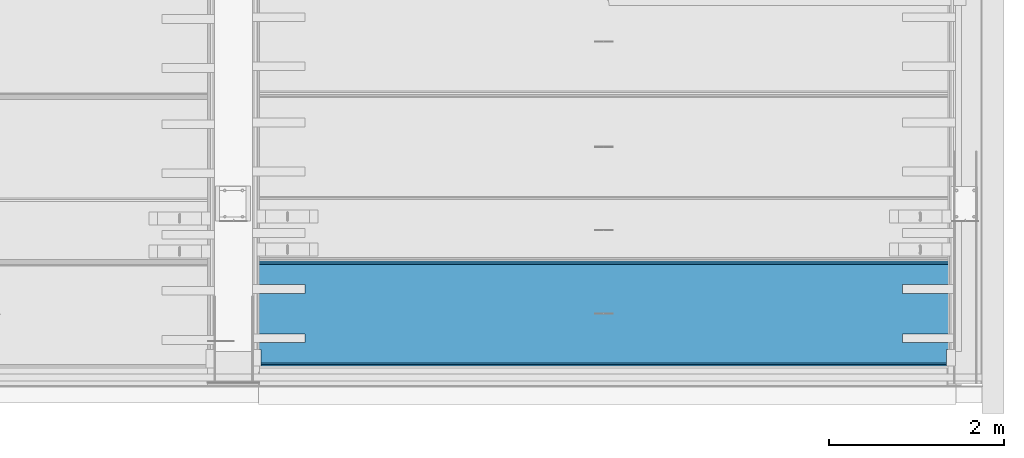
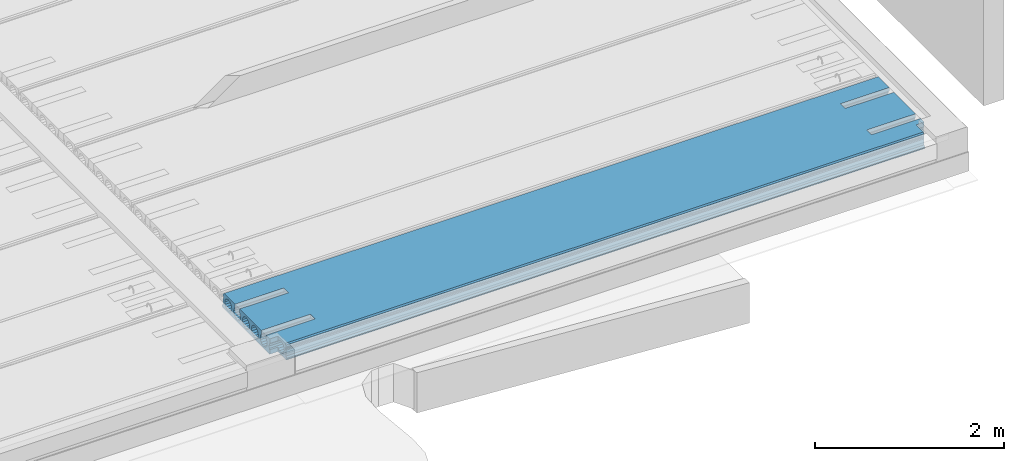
# One storey, part 85 of 230: 1 beam.
"""IFC4X3_ADD2 building model written with IfcOpenShell, lengths in millimetres."""

from ifc_helpers import new_model, si_unit, direction, origin_with_axes, place, context, subcontext, project, spatial, polygons, element, save


model = new_model("IFC4X3_ADD2")

# Units and contexts
model_context = context("Model", 3, precision=1e-05, world=origin_with_axes(), true_north=direction((0.0, 1.0)))
body_context = subcontext(model_context, "Body", "Model", "MODEL_VIEW")
ifc_project = project(units=[si_unit("LENGTHUNIT", "METRE", prefix="MILLI"), si_unit("AREAUNIT", "SQUARE_METRE"), si_unit("VOLUMEUNIT", "CUBIC_METRE"), si_unit("PLANEANGLEUNIT", "RADIAN"), si_unit("TIMEUNIT", "SECOND"), si_unit("MASSUNIT", "GRAM")], contexts=[model_context])

# Site, building, storey
site_placement = place(None, origin_with_axes())
site = spatial("IfcSite", under=ifc_project, at=site_placement, Name="Site", CompositionType="ELEMENT")
building_placement = place(site_placement, origin_with_axes())
building = spatial("IfcBuilding", under=site, at=building_placement, Name="IFC Building Story")
storey_placement = place(building_placement, origin_with_axes())
storey = spatial("IfcBuildingStorey", under=building, at=storey_placement, Name="ETAGE 00 (0)", Elevation=0.0)

# Beam
beam_placement = place(storey_placement, origin_with_axes())
element("IfcBeam", 1, at=beam_placement, inside=storey, Name="HOLLOWCORE SLAB", ObjectType="EB_SP200", context=body_context, shape_type="Tessellation", body=[
    polygons([(40181.189, -13078.0, 4199.9999909), (40181.189, -13062.71129616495, 4185.002769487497), (40181.189, -13062.22998046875, 4159.9999909), (40181.189, -13069.41863641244, 4151.036789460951), (40181.189, -13071.83993001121, 4139.805000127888), (40181.189, -13068.98262147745, 4128.676139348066), (40181.189, -13061.45001220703, 4119.9999909), (40181.189, -13060.0, 4044.9999909), (40181.189, -13040.0, 4029.9999909), (40181.189, -13040.0, 4012.9999909), (40181.189, -13051.0, 3999.9999909), (40181.189, -14050.0, 3999.9999909), (40181.189, -14050.0, 4058.276505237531), (40181.189, -14041.17097482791, 4071.490075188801), (40181.189, -14035.5, 4099.9999909), (40181.189, -14041.17097482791, 4128.509906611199), (40181.189, -14050.0, 4141.723476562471), (40181.189, -14050.0, 4199.9999909), (40181.189, -13970.0, 4199.9999909), (40181.189, -13970.0, 4155.806158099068), (40181.189, -13974.6794551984, 4152.679446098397), (40181.189, -13990.82902517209, 4128.509906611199), (40181.189, -13996.5, 4099.9999909), (40181.189, -13990.82902517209, 4071.490075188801), (40181.189, -13974.6794551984, 4047.320535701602), (40181.189, -13950.5099157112, 4031.170965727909), (40181.189, -13922.0, 4025.4999909), (40181.189, -13893.4900842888, 4031.170965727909), (40181.189, -13869.3205448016, 4047.320535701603), (40181.189, -13853.17097482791, 4071.490075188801), (40181.189, -13847.5, 4099.9999909), (40181.189, -13853.17097482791, 4128.509906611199), (40181.189, -13869.3205448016, 4152.679446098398), (40181.189, -13870.0, 4153.133443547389), (40181.189, -13870.0, 4199.9999909), (40181.189, -13410.0, 4199.9999909), (40181.189, -13410.0, 4153.133443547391), (40181.189, -13410.6794551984, 4152.679446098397), (40181.189, -13426.82902517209, 4128.509906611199), (40181.189, -13432.5, 4099.9999909), (40181.189, -13426.82902517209, 4071.490075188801), (40181.189, -13410.6794551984, 4047.320535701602), (40181.189, -13386.5099157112, 4031.170965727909), (40181.189, -13358.0, 4025.4999909), (40181.189, -13329.4900842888, 4031.170965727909), (40181.189, -13305.3205448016, 4047.320535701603), (40181.189, -13289.17097482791, 4071.490075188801), (40181.189, -13283.5, 4099.9999909), (40181.189, -13289.17097482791, 4128.509906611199), (40181.189, -13305.3205448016, 4152.679446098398), (40181.189, -13310.0, 4155.806158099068), (40181.189, -13310.0, 4199.9999909), (40181.189, -13117.3205448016, 4152.679446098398), (40181.189, -13141.4900842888, 4168.829016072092), (40181.189, -13170.0, 4174.4999909), (40181.189, -13198.5099157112, 4168.829016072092), (40181.189, -13222.6794551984, 4152.679446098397), (40181.189, -13238.82902517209, 4128.509906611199), (40181.189, -13244.5, 4099.9999909), (40181.189, -13238.82902517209, 4071.490075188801), (40181.189, -13222.6794551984, 4047.320535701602), (40181.189, -13198.5099157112, 4031.170965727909), (40181.189, -13170.0, 4025.4999909), (40181.189, -13141.4900842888, 4031.170965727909), (40181.189, -13117.3205448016, 4047.320535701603), (40181.189, -13101.17097482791, 4071.490075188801), (40181.189, -13095.5, 4099.9999909), (40181.189, -13101.17097482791, 4128.509906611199), (40181.189, -13493.3205448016, 4152.679446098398), (40181.189, -13517.4900842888, 4168.829016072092), (40181.189, -13546.0, 4174.4999909), (40181.189, -13574.5099157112, 4168.829016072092), (40181.189, -13598.6794551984, 4152.679446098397), (40181.189, -13614.82902517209, 4128.509906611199), (40181.189, -13620.5, 4099.9999909), (40181.189, -13614.82902517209, 4071.490075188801), (40181.189, -13598.6794551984, 4047.320535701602), (40181.189, -13574.5099157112, 4031.170965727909), (40181.189, -13546.0, 4025.4999909), (40181.189, -13517.4900842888, 4031.170965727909), (40181.189, -13493.3205448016, 4047.320535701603), (40181.189, -13477.17097482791, 4071.490075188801), (40181.189, -13471.5, 4099.9999909), (40181.189, -13477.17097482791, 4128.509906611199), (40181.189, -13681.3205448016, 4152.679446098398), (40181.189, -13705.4900842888, 4168.829016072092), (40181.189, -13734.0, 4174.4999909), (40181.189, -13762.5099157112, 4168.829016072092), (40181.189, -13786.6794551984, 4152.679446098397), (40181.189, -13802.82902517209, 4128.509906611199), (40181.189, -13808.5, 4099.9999909), (40181.189, -13802.82902517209, 4071.490075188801), (40181.189, -13786.6794551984, 4047.320535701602), (40181.189, -13762.5099157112, 4031.170965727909), (40181.189, -13734.0, 4025.4999909), (40181.189, -13705.4900842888, 4031.170965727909), (40181.189, -13681.3205448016, 4047.320535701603), (40181.189, -13665.17097482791, 4071.490075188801), (40181.189, -13659.5, 4099.9999909), (40181.189, -13665.17097482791, 4128.509906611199), (48196.18900000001, -13051.0, 3999.9999909), (48196.18900000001, -13040.0, 4012.9999909), (48196.18900000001, -13040.0, 4029.9999909), (48196.18900000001, -13060.0, 4044.9999909), (48196.18900000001, -13061.45001220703, 4119.9999909), (48196.18900000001, -13068.98262147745, 4128.676139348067), (48196.18900000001, -13071.83993001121, 4139.805000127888), (48196.18900000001, -13069.41863641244, 4151.036789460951), (48196.18900000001, -13062.22998046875, 4159.9999909), (48196.18900000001, -13062.71129616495, 4185.002769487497), (48196.18900000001, -13078.0, 4199.9999909), (48196.18900000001, -13310.0, 4199.9999909), (48196.18900000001, -13310.0, 4155.806158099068), (48196.18900000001, -13305.3205448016, 4152.679446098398), (48196.18900000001, -13289.17097482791, 4128.509906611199), (48196.18900000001, -13283.5, 4099.9999909), (48196.18900000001, -13289.17097482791, 4071.490075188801), (48196.18900000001, -13305.3205448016, 4047.320535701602), (48196.18900000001, -13329.4900842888, 4031.170965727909), (48196.18900000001, -13358.0, 4025.4999909), (48196.18900000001, -13386.5099157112, 4031.170965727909), (48196.18900000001, -13410.6794551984, 4047.320535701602), (48196.18900000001, -13426.82902517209, 4071.490075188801), (48196.18900000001, -13432.5, 4099.9999909), (48196.18900000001, -13426.82902517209, 4128.509906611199), (48196.18900000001, -13410.6794551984, 4152.679446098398), (48196.18900000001, -13410.0, 4153.133443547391), (48196.18900000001, -13410.0, 4199.9999909), (48196.18900000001, -13870.0, 4199.9999909), (48196.18900000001, -13870.0, 4153.133443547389), (48196.18900000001, -13869.3205448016, 4152.679446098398), (48196.18900000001, -13853.17097482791, 4128.509906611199), (48196.18900000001, -13847.5, 4099.9999909), (48196.18900000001, -13853.17097482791, 4071.490075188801), (48196.18900000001, -13869.3205448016, 4047.320535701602), (48196.18900000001, -13893.4900842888, 4031.170965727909), (48196.18900000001, -13922.0, 4025.4999909), (48196.18900000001, -13950.5099157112, 4031.170965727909), (48196.18900000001, -13974.6794551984, 4047.320535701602), (48196.18900000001, -13990.82902517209, 4071.490075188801), (48196.18900000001, -13996.5, 4099.9999909), (48196.18900000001, -13990.82902517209, 4128.509906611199), (48196.18900000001, -13974.6794551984, 4152.679446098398), (48196.18900000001, -13970.0, 4155.806158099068), (48196.18900000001, -13970.0, 4199.9999909), (48196.18900000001, -14050.0, 4199.9999909), (48196.18900000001, -14050.0, 4141.723476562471), (48196.18900000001, -14041.17097482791, 4128.509906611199), (48196.18900000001, -14035.5, 4099.9999909), (48196.18900000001, -14041.17097482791, 4071.490075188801), (48196.18900000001, -14050.0, 4058.276505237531), (48196.18900000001, -14050.0, 3999.9999909), (48196.18900000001, -13117.3205448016, 4152.679446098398), (48196.18900000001, -13101.17097482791, 4128.509906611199), (48196.18900000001, -13095.5, 4099.9999909), (48196.18900000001, -13101.17097482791, 4071.490075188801), (48196.18900000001, -13117.3205448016, 4047.320535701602), (48196.18900000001, -13141.4900842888, 4031.170965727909), (48196.18900000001, -13170.0, 4025.4999909), (48196.18900000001, -13198.5099157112, 4031.170965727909), (48196.18900000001, -13222.6794551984, 4047.320535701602), (48196.18900000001, -13238.82902517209, 4071.490075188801), (48196.18900000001, -13244.5, 4099.9999909), (48196.18900000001, -13238.82902517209, 4128.509906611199), (48196.18900000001, -13222.6794551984, 4152.679446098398), (48196.18900000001, -13198.5099157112, 4168.829016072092), (48196.18900000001, -13170.0, 4174.4999909), (48196.18900000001, -13141.4900842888, 4168.829016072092), (48196.18900000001, -13493.3205448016, 4152.679446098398), (48196.18900000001, -13477.17097482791, 4128.509906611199), (48196.18900000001, -13471.5, 4099.9999909), (48196.18900000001, -13477.17097482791, 4071.490075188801), (48196.18900000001, -13493.3205448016, 4047.320535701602), (48196.18900000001, -13517.4900842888, 4031.170965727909), (48196.18900000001, -13546.0, 4025.4999909), (48196.18900000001, -13574.5099157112, 4031.170965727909), (48196.18900000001, -13598.6794551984, 4047.320535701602), (48196.18900000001, -13614.82902517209, 4071.490075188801), (48196.18900000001, -13620.5, 4099.9999909), (48196.18900000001, -13614.82902517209, 4128.509906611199), (48196.18900000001, -13598.6794551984, 4152.679446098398), (48196.18900000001, -13574.5099157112, 4168.829016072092), (48196.18900000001, -13546.0, 4174.4999909), (48196.18900000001, -13517.4900842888, 4168.829016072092), (48196.18900000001, -13681.3205448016, 4152.679446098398), (48196.18900000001, -13665.17097482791, 4128.509906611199), (48196.18900000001, -13659.5, 4099.9999909), (48196.18900000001, -13665.17097482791, 4071.490075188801), (48196.18900000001, -13681.3205448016, 4047.320535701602), (48196.18900000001, -13705.4900842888, 4031.170965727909), (48196.18900000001, -13734.0, 4025.4999909), (48196.18900000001, -13762.5099157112, 4031.170965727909), (48196.18900000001, -13786.6794551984, 4047.320535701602), (48196.18900000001, -13802.82902517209, 4071.490075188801), (48196.18900000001, -13808.5, 4099.9999909), (48196.18900000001, -13802.82902517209, 4128.509906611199), (48196.18900000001, -13786.6794551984, 4152.679446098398), (48196.18900000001, -13762.5099157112, 4168.829016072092), (48196.18900000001, -13734.0, 4174.4999909), (48196.18900000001, -13705.4900842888, 4168.829016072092), (48096.18900000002, -14050.0, 3999.9999909), (48096.18900000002, -14229.0, 3999.9999909), (40281.1890033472, -14229.0, 3999.9999909), (40281.18901200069, -14050.0, 3999.9999909), (48096.18900000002, -14240.0, 4012.9999909), (40281.18900260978, -14240.0, 4012.9999909), (48096.18900000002, -14240.0, 4029.9999909), (40281.18900209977, -14240.0, 4029.9999909), (48096.18900000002, -14220.0, 4044.9999909), (40281.18900228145, -14220.0, 4044.999990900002), (48096.18900000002, -14218.54998779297, 4119.9999909), (40281.189, -14218.54998779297, 4119.9999909), (48096.18900000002, -14211.01737852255, 4128.676139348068), (40281.189, -14211.01737852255, 4128.676139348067), (48096.18900000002, -14208.16006998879, 4139.805000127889), (40281.189, -14208.16006998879, 4139.805000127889), (48096.18900000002, -14210.58136358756, 4151.036789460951), (40281.18899939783, -14210.58136358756, 4151.036789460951), (48096.18900000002, -14217.77001953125, 4159.9999909), (40281.18899890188, -14217.77001953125, 4159.9999909), (48096.18900000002, -14217.28870383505, 4185.002769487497), (40281.188998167, -14217.28870383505, 4185.002769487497), (48096.18900000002, -14202.0, 4199.9999909), (40281.18899819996, -14202.0, 4199.9999909), (40781.189, -13310.0, 4199.9999909), (40781.189, -13410.0, 4199.9999909), (40781.189, -13870.0, 4199.9999909), (40781.189, -13970.0, 4199.9999909), (40281.18900300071, -14050.0, 4199.9999909), (48096.18900000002, -14050.0, 4199.9999909), (47596.18900000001, -13970.0, 4199.9999909), (47596.18900000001, -13870.0, 4199.9999909), (47596.18900000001, -13410.0, 4199.9999909), (47596.18900000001, -13310.0, 4199.9999909), (47596.18900000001, -13310.0, 4155.806158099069), (47596.18900000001, -13329.4900842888, 4168.829016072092), (40781.189, -13329.4900842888, 4168.829016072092), (40781.189, -13310.0, 4155.806158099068), (47596.18900000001, -13358.0, 4174.4999909), (40781.189, -13358.0, 4174.499990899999), (47596.18900000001, -13386.5099157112, 4168.829016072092), (40781.189, -13386.5099157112, 4168.82901607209), (40781.189, -13410.0, 4153.133443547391), (47596.18900000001, -13410.0, 4153.133443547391), (47596.18900000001, -13870.0, 4153.133443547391), (47596.18900000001, -13893.4900842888, 4168.829016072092), (40781.189, -13893.4900842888, 4168.829016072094), (40781.189, -13870.0, 4153.13344354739), (47596.18900000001, -13922.0, 4174.4999909), (40781.189, -13922.0, 4174.4999909), (47596.18900000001, -13950.5099157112, 4168.829016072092), (40781.189, -13950.5099157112, 4168.829016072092), (40781.189, -13970.0, 4155.806158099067), (47596.18900000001, -13970.0, 4155.806158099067), (40281.18900294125, -14081.4900842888, 4168.829016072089), (40281.1890041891, -14057.3205448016, 4152.679446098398), (48096.18900000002, -14057.32054480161, 4152.679446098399), (48096.18900000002, -14081.4900842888, 4168.829016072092), (48096.18900000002, -14110.0, 4174.4999909), (40281.18900187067, -14110.0, 4174.4999909), (48096.18900000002, -14138.5099157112, 4168.829016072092), (40281.18900114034, -14138.50991571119, 4168.829016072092), (48096.18900000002, -14162.6794551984, 4152.679446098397), (40281.18900086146, -14162.6794551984, 4152.679446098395), (48096.18900000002, -14178.82902517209, 4128.509906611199), (40281.1890010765, -14178.82902517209, 4128.509906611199), (48096.18900000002, -14184.5, 4099.9999909), (40281.18900175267, -14184.5, 4099.9999909), (48096.18900000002, -14178.82902517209, 4071.490075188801), (40281.18900278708, -14178.82902517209, 4071.490075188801), (48096.18900000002, -14162.6794551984, 4047.320535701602), (40281.18900402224, -14162.6794551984, 4047.320535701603), (48096.18900000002, -14138.5099157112, 4031.170965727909), (40281.18900527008, -14138.50991571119, 4031.170965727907), (48096.18900000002, -14110.0, 4025.4999909), (40281.18900634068, -14110.0, 4025.4999909), (48096.18900000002, -14081.4900842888, 4031.170965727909), (40281.18900707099, -14081.4900842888, 4031.170965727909), (48096.18900000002, -14057.3205448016, 4047.320535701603), (40281.18900734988, -14057.32054480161, 4047.3205357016), (40281.18900725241, -14050.0, 4058.276505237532), (48096.18900000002, -14050.0, 4058.276505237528), (48096.18900000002, -14050.0, 4141.723476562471), (40281.18900349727, -14050.0, 4141.723476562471), (40281.18901200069, -14050.0, 3999.9999969), (40281.18900850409, -14050.0, 4058.276505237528), (40281.18900900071, -14050.0, 3999.9999909), (40281.189, -14050.0, 4199.999996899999), (40281.189004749, -14050.0, 4141.723476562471), (48096.18900000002, -14050.0, 3999.9999969), (40781.189, -13410.0, 4199.999996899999), (40781.189, -13310.0, 4199.999996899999), (47596.18900000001, -13310.0, 4199.999996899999), (47596.18900000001, -13410.0, 4199.999996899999), (47596.18900000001, -13870.0, 4199.999996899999), (47596.18900000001, -13970.0, 4199.999996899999), (40781.189, -13970.0, 4199.999996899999), (40781.189, -13870.0, 4199.999996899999), (48096.18900000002, -14050.0, 4199.999996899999), (40281.189, -14050.0, 4199.9999909)], [[[84, 69, 36]], [[84, 36, 37]], [[39, 40, 83]], [[39, 83, 84]], [[84, 38, 39]], [[84, 37, 38]], [[41, 42, 82]], [[82, 83, 40]], [[82, 40, 41]], [[42, 81, 82]], [[50, 51, 52]], [[56, 57, 49]], [[56, 49, 50]], [[56, 50, 52]], [[52, 55, 56]], [[52, 1, 55]], [[1, 54, 55]], [[1, 53, 54]], [[58, 59, 48]], [[58, 48, 49]], [[49, 57, 58]], [[60, 61, 47]], [[47, 48, 59]], [[47, 59, 60]], [[4, 5, 68]], [[4, 68, 53]], [[53, 1, 2]], [[53, 2, 3]], [[53, 3, 4]], [[6, 7, 67]], [[6, 67, 68]], [[68, 5, 6]], [[7, 8, 66]], [[7, 66, 67]], [[8, 9, 10]], [[8, 10, 11]], [[11, 65, 66]], [[11, 66, 8]], [[11, 64, 65]], [[11, 63, 64]], [[11, 62, 63]], [[11, 46, 62]], [[46, 47, 61]], [[46, 61, 62]], [[11, 45, 46]], [[11, 44, 45]], [[11, 80, 44]], [[80, 43, 44]], [[80, 81, 42]], [[80, 42, 43]], [[11, 79, 80]], [[79, 11, 12]], [[12, 78, 79]], [[16, 17, 18]], [[22, 23, 15]], [[22, 15, 16]], [[16, 18, 19]], [[16, 19, 21]], [[16, 21, 22]], [[19, 20, 21]], [[23, 24, 14]], [[23, 14, 15]], [[33, 34, 35]], [[88, 89, 32]], [[88, 32, 33]], [[88, 33, 35]], [[35, 87, 88]], [[87, 35, 36]], [[36, 86, 87]], [[36, 85, 86]], [[90, 91, 31]], [[90, 31, 32]], [[32, 89, 90]], [[92, 93, 30]], [[30, 31, 91]], [[30, 91, 92]], [[93, 94, 29]], [[93, 29, 30]], [[94, 28, 29]], [[94, 27, 28]], [[96, 97, 77]], [[96, 77, 78]], [[78, 95, 96]], [[95, 78, 12]], [[12, 27, 94]], [[12, 94, 95]], [[12, 26, 27]], [[12, 25, 26]], [[12, 14, 24]], [[12, 24, 25]], [[12, 13, 14]], [[97, 76, 77]], [[98, 99, 75]], [[98, 75, 76]], [[76, 97, 98]], [[100, 85, 74]], [[74, 75, 99]], [[74, 99, 100]], [[85, 73, 74]], [[85, 72, 73]], [[85, 71, 72]], [[71, 85, 36]], [[36, 70, 71]], [[36, 69, 70]], [[143, 144, 145]], [[145, 146, 147]], [[145, 147, 142]], [[145, 142, 143]], [[148, 149, 141]], [[148, 141, 142]], [[142, 147, 148]], [[150, 151, 140]], [[140, 141, 149]], [[140, 149, 150]], [[151, 152, 139]], [[151, 139, 140]], [[152, 138, 139]], [[152, 137, 138]], [[152, 136, 137]], [[108, 109, 110]], [[108, 110, 111]], [[108, 111, 153]], [[153, 154, 107]], [[153, 107, 108]], [[154, 106, 107]], [[156, 157, 104]], [[104, 105, 155]], [[104, 155, 156]], [[105, 106, 154]], [[105, 154, 155]], [[168, 153, 111]], [[111, 167, 168]], [[167, 111, 112]], [[112, 166, 167]], [[112, 165, 166]], [[112, 113, 164]], [[112, 164, 165]], [[115, 116, 163]], [[115, 163, 164]], [[164, 114, 115]], [[164, 113, 114]], [[117, 118, 162]], [[162, 163, 116]], [[162, 116, 117]], [[118, 161, 162]], [[126, 127, 128]], [[128, 169, 125]], [[128, 125, 126]], [[170, 171, 124]], [[170, 124, 125]], [[125, 169, 170]], [[172, 173, 123]], [[123, 124, 171]], [[123, 171, 172]], [[173, 122, 123]], [[184, 169, 128]], [[128, 183, 184]], [[128, 185, 183]], [[185, 182, 183]], [[185, 181, 182]], [[185, 180, 181]], [[186, 187, 179]], [[186, 179, 180]], [[180, 185, 186]], [[188, 189, 178]], [[178, 179, 187]], [[178, 187, 188]], [[189, 177, 178]], [[136, 152, 192]], [[192, 193, 136]], [[193, 135, 136]], [[152, 191, 192]], [[152, 176, 191]], [[176, 190, 191]], [[176, 177, 189]], [[176, 189, 190]], [[152, 175, 176]], [[152, 121, 175]], [[121, 174, 175]], [[121, 122, 173]], [[121, 173, 174]], [[152, 120, 121]], [[152, 160, 120]], [[160, 119, 120]], [[160, 161, 118]], [[160, 118, 119]], [[152, 159, 160]], [[152, 101, 159]], [[101, 158, 159]], [[101, 104, 157]], [[101, 157, 158]], [[101, 102, 103]], [[101, 103, 104]], [[193, 134, 135]], [[194, 195, 133]], [[194, 133, 134]], [[134, 193, 194]], [[196, 197, 132]], [[132, 133, 195]], [[132, 195, 196]], [[200, 185, 128]], [[128, 199, 200]], [[128, 129, 199]], [[129, 198, 199]], [[129, 131, 132]], [[129, 132, 197]], [[129, 197, 198]], [[129, 130, 131]], [[204, 12, 11]], [[204, 11, 201]], [[201, 202, 203]], [[201, 203, 204]], [[11, 101, 201]], [[101, 152, 201]], [[203, 202, 205, 206]], [[206, 205, 207, 208]], [[208, 207, 209, 210]], [[210, 209, 211, 212]], [[212, 211, 213, 214]], [[214, 213, 215, 216]], [[216, 215, 217, 218]], [[218, 217, 219, 220]], [[220, 219, 221, 222]], [[222, 221, 223, 224]], [[226, 36, 35]], [[226, 35, 227]], [[229, 224, 228]], [[228, 19, 229]], [[19, 18, 229]], [[228, 224, 223]], [[223, 227, 228]], [[226, 227, 223]], [[223, 225, 226]], [[230, 146, 145]], [[232, 129, 128]], [[232, 128, 233]], [[234, 112, 111]], [[234, 111, 1]], [[1, 233, 234]], [[232, 233, 1]], [[1, 231, 232]], [[1, 225, 223]], [[1, 223, 231]], [[230, 145, 231]], [[231, 223, 230]], [[1, 52, 225]], [[2, 1, 111, 110]], [[3, 2, 110, 109]], [[4, 3, 109, 108]], [[5, 4, 108, 107]], [[6, 5, 107, 106]], [[7, 6, 106, 105]], [[8, 7, 105, 104]], [[9, 8, 104, 103]], [[10, 9, 103, 102]], [[11, 10, 102, 101]], [[54, 53, 153, 168]], [[55, 54, 168, 167]], [[56, 55, 167, 166]], [[57, 56, 166, 165]], [[58, 57, 165, 164]], [[59, 58, 164, 163]], [[60, 59, 163, 162]], [[61, 60, 162, 161]], [[62, 61, 161, 160]], [[63, 62, 160, 159]], [[64, 63, 159, 158]], [[65, 64, 158, 157]], [[66, 65, 157, 156]], [[67, 66, 156, 155]], [[68, 67, 155, 154]], [[53, 68, 154, 153]], [[238, 51, 50]], [[238, 50, 235]], [[235, 236, 237]], [[235, 237, 238]], [[50, 114, 235]], [[114, 113, 235]], [[237, 236, 239, 240]], [[240, 239, 241, 242]], [[244, 127, 126]], [[244, 126, 243]], [[243, 242, 241]], [[243, 241, 244]], [[126, 38, 243]], [[38, 37, 243]], [[39, 38, 126, 125]], [[40, 39, 125, 124]], [[41, 40, 124, 123]], [[42, 41, 123, 122]], [[43, 42, 122, 121]], [[44, 43, 121, 120]], [[45, 44, 120, 119]], [[46, 45, 119, 118]], [[47, 46, 118, 117]], [[48, 47, 117, 116]], [[49, 48, 116, 115]], [[50, 49, 115, 114]], [[70, 69, 169, 184]], [[71, 70, 184, 183]], [[72, 71, 183, 182]], [[73, 72, 182, 181]], [[74, 73, 181, 180]], [[75, 74, 180, 179]], [[76, 75, 179, 178]], [[77, 76, 178, 177]], [[78, 77, 177, 176]], [[79, 78, 176, 175]], [[80, 79, 175, 174]], [[81, 80, 174, 173]], [[82, 81, 173, 172]], [[83, 82, 172, 171]], [[84, 83, 171, 170]], [[69, 84, 170, 169]], [[86, 85, 185, 200]], [[87, 86, 200, 199]], [[88, 87, 199, 198]], [[89, 88, 198, 197]], [[90, 89, 197, 196]], [[91, 90, 196, 195]], [[92, 91, 195, 194]], [[93, 92, 194, 193]], [[94, 93, 193, 192]], [[95, 94, 192, 191]], [[96, 95, 191, 190]], [[97, 96, 190, 189]], [[98, 97, 189, 188]], [[99, 98, 188, 187]], [[100, 99, 187, 186]], [[85, 100, 186, 185]], [[248, 34, 33]], [[248, 33, 245]], [[245, 246, 247]], [[245, 247, 248]], [[33, 131, 245]], [[131, 130, 245]], [[246, 249, 250, 247]], [[249, 251, 252, 250]], [[254, 144, 143]], [[254, 143, 253]], [[253, 252, 251]], [[253, 251, 254]], [[143, 21, 253]], [[21, 20, 253]], [[22, 21, 143, 142]], [[23, 22, 142, 141]], [[24, 23, 141, 140]], [[25, 24, 140, 139]], [[26, 25, 139, 138]], [[27, 26, 138, 137]], [[28, 27, 137, 136]], [[29, 28, 136, 135]], [[30, 29, 135, 134]], [[31, 30, 134, 133]], [[32, 31, 133, 132]], [[33, 32, 132, 131]], [[255, 256, 257, 258]], [[255, 258, 259, 260]], [[260, 259, 261, 262]], [[262, 261, 263, 264]], [[264, 263, 265, 266]], [[266, 265, 267, 268]], [[268, 267, 269, 270]], [[270, 269, 271, 272]], [[272, 271, 273, 274]], [[274, 273, 275, 276]], [[276, 275, 277, 278]], [[278, 277, 279, 280]], [[281, 280, 279]], [[282, 151, 150]], [[282, 150, 14]], [[282, 14, 281]], [[281, 279, 282]], [[14, 13, 281]], [[15, 14, 150, 149]], [[16, 15, 149, 148]], [[283, 257, 256]], [[284, 17, 16]], [[284, 16, 148]], [[284, 148, 283]], [[283, 256, 284]], [[148, 147, 283]], [[13, 12, 285, 286]], [[218, 220, 222]], [[218, 222, 224]], [[264, 266, 216]], [[264, 216, 218]], [[218, 224, 262]], [[218, 262, 264]], [[224, 288, 260]], [[224, 260, 262]], [[288, 255, 260]], [[288, 256, 255]], [[288, 289, 256]], [[266, 214, 216]], [[280, 286, 287]], [[287, 278, 280]], [[287, 276, 278]], [[287, 274, 276]], [[287, 210, 274]], [[210, 272, 274]], [[210, 270, 272]], [[210, 212, 268]], [[210, 268, 270]], [[212, 214, 266]], [[212, 266, 268]], [[287, 203, 210]], [[203, 206, 208]], [[203, 208, 210]], [[152, 151, 282, 201]], [[257, 283, 230]], [[230, 258, 257]], [[230, 259, 258]], [[230, 223, 261]], [[230, 261, 259]], [[223, 263, 261]], [[217, 215, 265]], [[217, 265, 263]], [[263, 223, 221]], [[263, 221, 219]], [[263, 219, 217]], [[213, 211, 267]], [[213, 267, 265]], [[265, 215, 213]], [[211, 209, 269]], [[211, 269, 267]], [[209, 271, 269]], [[209, 273, 271]], [[209, 207, 205]], [[209, 205, 202]], [[209, 202, 290]], [[209, 290, 273]], [[290, 275, 273]], [[290, 277, 275]], [[290, 279, 277]], [[290, 282, 279]], [[52, 51, 238, 225]], [[37, 36, 291, 243]], [[242, 243, 226]], [[226, 292, 240]], [[226, 240, 242]], [[292, 237, 240]], [[292, 238, 237]], [[128, 127, 244, 233]], [[113, 112, 293, 235]], [[236, 235, 234]], [[234, 239, 236]], [[234, 294, 241]], [[234, 241, 239]], [[294, 244, 241]], [[145, 144, 254, 231]], [[130, 129, 295, 245]], [[246, 245, 232]], [[232, 296, 249]], [[232, 249, 246]], [[296, 251, 249]], [[296, 254, 251]], [[248, 227, 35, 34]], [[297, 253, 20, 19]], [[252, 253, 228]], [[228, 250, 252]], [[228, 298, 247]], [[228, 247, 250]], [[298, 248, 247]], [[147, 146, 299, 283]], [[18, 17, 284, 300]]]),
])

save(model, "model.ifc")
